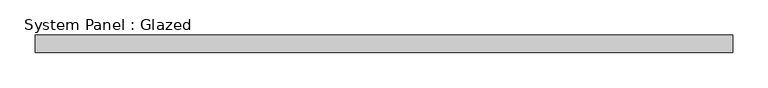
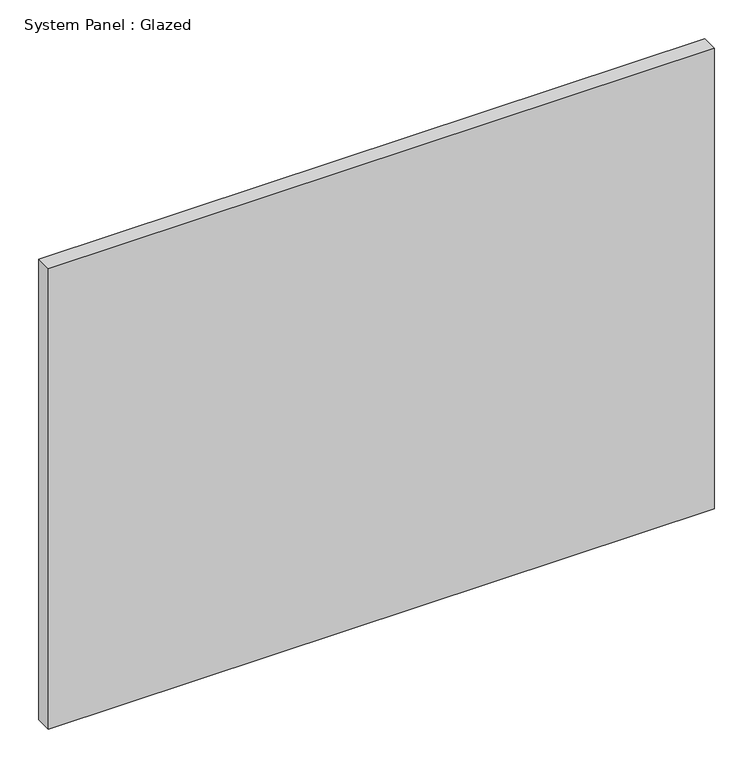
"""IFC4 building model written with IfcOpenShell, lengths in millimetres: plate geometry, System Panel : Glazed."""

import ifcopenshell
import ifcopenshell.guid

model = None  # the IFC model being written
_history = None  # IfcOwnerHistory: only IFC2X3 demands one
_inside = {}  # id of a spatial element -> (the spatial element, [elements in it])
_under = {}  # id of a project, library or spatial element -> (it, [spatial elements below it])
_declared = {}  # id of a project -> (the project, [libraries it declares])
_typed = {}  # id of a type object -> (the type object, [elements of that type])
_made_of = {}  # id of a material, layer set ... -> (it, [elements and type objects made of it])


def new_model(schema):
    """Start an empty IFC model of exactly this schema.

    Asked for "IFC4X3", IfcOpenShell would pick the latest addendum, in which some entities
    have other attributes; the version numbers below select the first issue.
    IFC2X3 requires an IfcOwnerHistory on every rooted entity: one is made here for all.
    """
    global model, _history
    if schema == "IFC4X3":
        model = ifcopenshell.file(schema_version=(4, 3, 0, 0))
    else:
        model = ifcopenshell.file(schema=schema)
    _inside.clear()
    _under.clear()
    _declared.clear()
    _typed.clear()
    _made_of.clear()
    _history = None
    if model.schema == "IFC2X3":
        org = make("IfcOrganization", Name="unknown")
        user = make(
            "IfcPersonAndOrganization",
            ThePerson=make("IfcPerson", FamilyName="unknown"),
            TheOrganization=org,
        )
        app = make(
            "IfcApplication",
            ApplicationDeveloper=org,
            Version="unknown",
            ApplicationFullName="unknown",
            ApplicationIdentifier="unknown",
        )
        _history = make(
            "IfcOwnerHistory",
            OwningUser=user,
            OwningApplication=app,
            ChangeAction="ADDED",
            CreationDate=0,
        )
    return model


def make(cls, **values):
    """One entity of the class cls with the attributes given. An attribute that is None is left unset."""
    return model.create_entity(
        cls, **{name: value for name, value in values.items() if value is not None}
    )


def rooted(cls, **values):
    """An entity with a GlobalId (a new one), such as an element, a storey or a relation."""
    return make(cls, GlobalId=ifcopenshell.guid.new(), OwnerHistory=_history, **values)


def si_unit(unit_type, name, prefix=None):
    """IfcSIUnit, for example si_unit("LENGTHUNIT", "METRE", prefix="MILLI")."""
    return make("IfcSIUnit", UnitType=unit_type, Prefix=prefix, Name=name)


def assignment(units):
    """IfcUnitAssignment: the units of a project."""
    return None if units is None else make("IfcUnitAssignment", Units=units)


def point(xyz):
    """IfcCartesianPoint."""
    return None if xyz is None else make("IfcCartesianPoint", Coordinates=xyz)


def direction(xyz):
    """IfcDirection."""
    return None if xyz is None else make("IfcDirection", DirectionRatios=xyz)


def frame(location, z_axis=None, x_axis=None):
    """IfcAxis2Placement3D, a coordinate frame: its origin and axes. An axis left out is left unset."""
    return make(
        "IfcAxis2Placement3D",
        Location=point(location),
        Axis=direction(z_axis),
        RefDirection=direction(x_axis),
    )


def origin():
    """The frame at (0, 0, 0) with its axes left unset."""
    return frame((0.0, 0.0, 0.0))


def origin_with_axes():
    """The frame at (0, 0, 0) with the z axis (0, 0, 1) and the x axis (1, 0, 0) written out."""
    return frame((0.0, 0.0, 0.0), z_axis=(0.0, 0.0, 1.0), x_axis=(1.0, 0.0, 0.0))


def place(relative_to, where):
    """IfcLocalPlacement: puts the frame where relative to a parent placement (None: the world)."""
    return make(
        "IfcLocalPlacement", PlacementRelTo=relative_to, RelativePlacement=where
    )


def context(
    kind, dimensions, precision=None, world=None, true_north=None, identifier=None
):
    """IfcGeometricRepresentationContext, for example the 3D "Model" context."""
    return make(
        "IfcGeometricRepresentationContext",
        ContextIdentifier=identifier,
        ContextType=kind,
        CoordinateSpaceDimension=dimensions,
        Precision=precision,
        WorldCoordinateSystem=world,
        TrueNorth=true_north,
    )


def project(units=None, contexts=None):
    """IfcProject with its units and contexts."""
    return rooted(
        "IfcProject",
        Name="project",
        RepresentationContexts=contexts,
        UnitsInContext=assignment(units),
    )


def spatial(cls, under=None, at=None, **own):
    """A site, building, storey or space (cls), placed at a placement, below another one or the project."""
    s = rooted(cls, ObjectPlacement=at, **own)
    if under is not None:
        _under.setdefault(under.id(), (under, []))[1].append(s)
    return s


def polyline(points):
    """IfcPolyline through the points."""
    return make("IfcPolyline", Points=[point(p) for p in points])


def outline(outer, holes=None, kind="AREA"):
    """IfcArbitraryClosedProfileDef: a profile drawn as a closed curve; with holes, ...WithVoids."""
    if holes is None:
        return make("IfcArbitraryClosedProfileDef", ProfileType=kind, OuterCurve=outer)
    return make(
        "IfcArbitraryProfileDefWithVoids",
        ProfileType=kind,
        OuterCurve=outer,
        InnerCurves=holes,
    )


def extrude(swept, where, along, depth):
    """IfcExtrudedAreaSolid: the profile swept, set in the frame where, extruded along a direction by depth."""
    return make(
        "IfcExtrudedAreaSolid",
        SweptArea=swept,
        Position=where,
        ExtrudedDirection=direction(along),
        Depth=depth,
    )


def shape(context_of_items, identifier, shape_type, items):
    """IfcShapeRepresentation: the items that make up one representation, for example the "Body"."""
    return make(
        "IfcShapeRepresentation",
        ContextOfItems=context_of_items,
        RepresentationIdentifier=identifier,
        RepresentationType=shape_type,
        Items=items,
    )


def source(mapping_origin, context_of_items, identifier, shape_type, items):
    """IfcRepresentationMap: a shape defined once, which mapped items show again and again."""
    return make(
        "IfcRepresentationMap",
        MappingOrigin=mapping_origin,
        MappedRepresentation=shape(context_of_items, identifier, shape_type, items),
    )


def transform(
    local_origin,
    x_axis=None,
    y_axis=None,
    z_axis=None,
    scale=None,
    scale2=None,
    scale3=None,
    uniform=True,
):
    """IfcCartesianTransformationOperator3D, or its non-uniform kind. x_axis, y_axis, z_axis: its Axis1, 2, 3."""
    if uniform:
        return make(
            "IfcCartesianTransformationOperator3D",
            Axis1=direction(x_axis),
            Axis2=direction(y_axis),
            LocalOrigin=point(local_origin),
            Scale=scale,
            Axis3=direction(z_axis),
        )
    return make(
        "IfcCartesianTransformationOperator3DnonUniform",
        Axis1=direction(x_axis),
        Axis2=direction(y_axis),
        LocalOrigin=point(local_origin),
        Scale=scale,
        Axis3=direction(z_axis),
        Scale2=scale2,
        Scale3=scale3,
    )


def mapped(mapping_source, mapping_target):
    """IfcMappedItem: shows the shape of a source again, moved by a transform."""
    return make(
        "IfcMappedItem", MappingSource=mapping_source, MappingTarget=mapping_target
    )


def made_of(thing, what):
    """Note that an element or type object is made of a material, layer set ...; save() writes the relation."""
    if what is not None:
        _made_of.setdefault(what.id(), (what, []))[1].append(thing)
    return thing


def element(
    cls,
    number,
    at=None,
    inside=None,
    cuts=None,
    type_object=None,
    material=None,
    context=None,
    identifier="Body",
    shape_type=None,
    held_by="IfcProductDefinitionShape",
    body=None,
    shapes=None,
    **own,
):
    """One element of the class cls, such as IfcWall. Its Tag is "e" and its number.

    at: its placement. inside: the storey or other place that contains it. cuts: it is an
    opening in that element (IfcRelVoidsElement). A single representation is given by context,
    identifier, shape_type and body (its items); several are given by shapes. held_by: the class
    of the entity that holds the representations. save() writes the other relations.
    """
    e = rooted(cls, Tag="e%d" % number, ObjectPlacement=at, **own)
    if body is not None:
        shapes = [shape(context, identifier, shape_type, body)]
    if shapes is not None:
        e.Representation = make(held_by, Representations=shapes)
    if inside is not None:
        _inside.setdefault(inside.id(), (inside, []))[1].append(e)
    if cuts is not None:
        rooted(
            "IfcRelVoidsElement", RelatingBuildingElement=cuts, RelatedOpeningElement=e
        )
    if type_object is not None:
        _typed.setdefault(type_object.id(), (type_object, []))[1].append(e)
    return made_of(e, material)


def aggregate(whole, parts):
    """IfcRelAggregates: a whole, such as a stair, and the parts it consists of."""
    return rooted("IfcRelAggregates", RelatingObject=whole, RelatedObjects=parts)


def save(model, path):
    """Write the relations noted so far, then the file.

    IfcRelAggregates (storeys below a building ...), IfcRelContainedInSpatialStructure (elements
    in a storey), IfcRelDefinesByType, IfcRelAssociatesMaterial and IfcRelDeclares: one each for
    every whole, place, type object, material and project.
    """
    for whole, parts in _under.values():
        aggregate(whole, parts)
    for where, things in _inside.values():
        rooted(
            "IfcRelContainedInSpatialStructure",
            RelatedElements=things,
            RelatingStructure=where,
        )
    for kind, things in _typed.values():
        rooted("IfcRelDefinesByType", RelatedObjects=things, RelatingType=kind)
    for what, things in _made_of.values():
        rooted("IfcRelAssociatesMaterial", RelatedObjects=things, RelatingMaterial=what)
    for by, libraries in _declared.values():
        rooted("IfcRelDeclares", RelatingContext=by, RelatedDefinitions=libraries)
    model.write(path)


def system_panel_glazed_96c1c5f2(model_context):
    return source(origin(), model_context, "Body", "SweptSolid", [
        extrude(outline(polyline([(495.8333333, 24.5), (-495.8333333, 24.5), (-495.8333333, 49.5), (495.8333333, 49.5), (495.8333333, 24.5)])), origin_with_axes(), (0.0, 0.0, 1.0), 725.0),
    ])


if __name__ == "__main__":
    model = new_model("IFC4")
    model_context = context("Model", 3, world=origin())
    ifc_project = project(units=[si_unit("LENGTHUNIT", "METRE", prefix="MILLI")], contexts=[model_context])
    site = spatial("IfcSite", under=ifc_project)
    building = spatial("IfcBuilding", under=site)
    placement = place(None, origin())
    system_panel_glazed_shape = system_panel_glazed_96c1c5f2(model_context)
    element("IfcPlate", 1, ObjectType="System Panel : Glazed", at=placement, inside=building, context=model_context, shape_type="MappedRepresentation", body=[
        mapped(system_panel_glazed_shape, transform((0.0, 0.0, 0.0), x_axis=(1.0, 0.0, 0.0), y_axis=(0.0, 1.0, 0.0), z_axis=(0.0, 0.0, 1.0))),
    ])
    save(model, "model.ifc")
